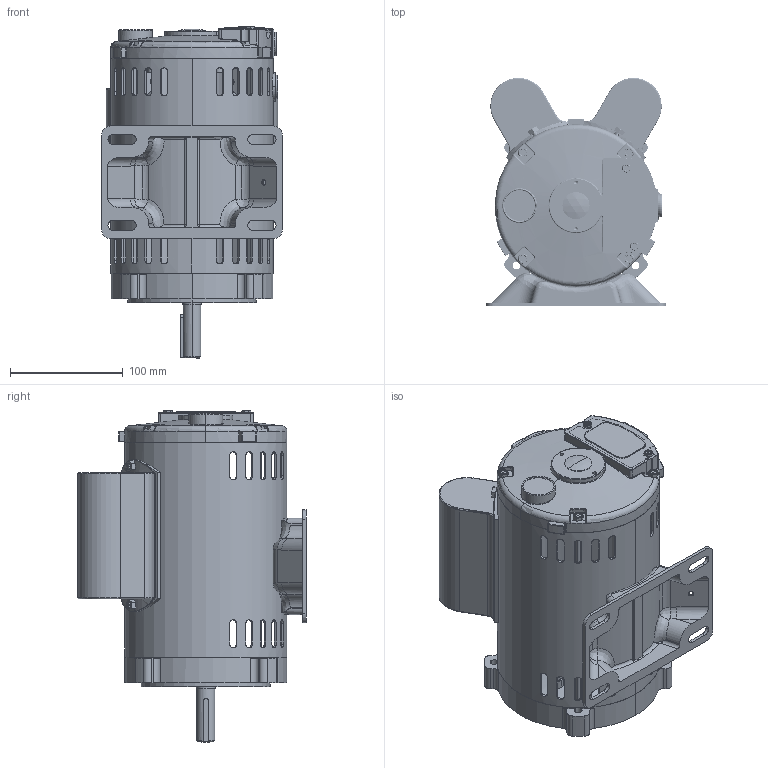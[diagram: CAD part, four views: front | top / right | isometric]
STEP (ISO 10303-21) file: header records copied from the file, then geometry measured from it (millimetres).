
FILE_DESCRIPTION (( 'STEP AP203' ), '1' );
FILE_NAME ('OPE 1-36-56CB.STEP', '2025-03-04T07:02:48', ( 'User' ), ( 'China' ), 'SwSTEP 2.0', 'SolidWorks 2019', '' );
FILE_SCHEMA (( 'CONFIG_CONTROL_DESIGN' ));
Length unit declared in the file: millimetre
Products named in the file (3): OPE 1-36-56; x; OPE 1-36-56CB
Assembly tree (2 placements, depth 2):
  OPE 1-36-56CB
    OPE 1-36-56
    x
Bounding box: 160 x 202.21 x 294.35 mm (x, y, z)
Volume: 669029.2 mm3; surface area: 520080.7 mm2
Topology: 30 solids, 32 shells, 2596 faces, 6784 edges, 4258 vertices
Faces by surface type: cylinder 1216, plane 667, bspline 303, torus 279, cone 106, sphere 25
Entity records: 119391 total; most frequent: CARTESIAN_POINT 59263, ORIENTED_EDGE 13416, DIRECTION 11311, EDGE_CURVE 6708, AXIS2_PLACEMENT_3D 4359, VERTEX_POINT 4254, EDGE_LOOP 2784, ADVANCED_FACE 2596
